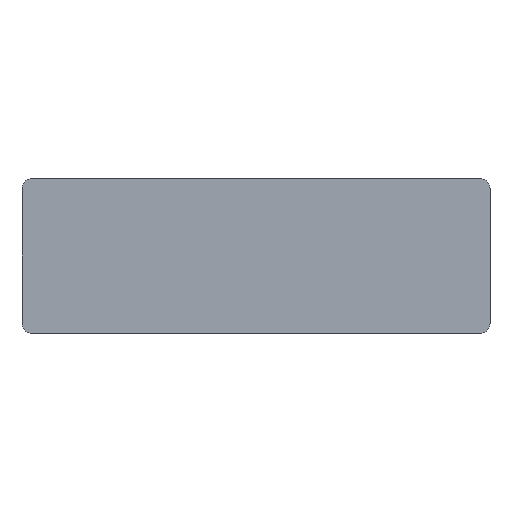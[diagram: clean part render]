
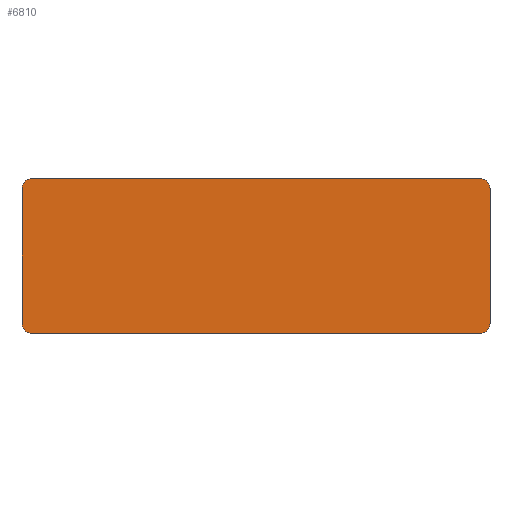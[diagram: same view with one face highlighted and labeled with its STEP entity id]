
A CAD part, front view. The second image highlights one B-rep face of the part: STEP entity #6810.
In plain terms, the highlighted planar face has unit normal (0, -1, 0).
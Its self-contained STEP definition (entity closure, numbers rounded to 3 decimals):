
#15=DIRECTION('',(1.,0.,0.));
#16=VECTOR('',#15,260.);
#17=CARTESIAN_POINT('',(-130.,-77.5,45.));
#18=LINE('19112',#17,#16);
#27=CARTESIAN_POINT('',(130.,-77.5,39.));
#28=DIRECTION('',(0.,1.,0.));
#29=DIRECTION('',(0.,0.,1.));
#30=AXIS2_PLACEMENT_3D('',#27,#28,#29);
#90=CARTESIAN_POINT('',(-130.,-77.5,39.));
#91=DIRECTION('',(0.,-1.,0.));
#92=DIRECTION('',(0.,0.,1.));
#93=AXIS2_PLACEMENT_3D('',#90,#91,#92);
#107=DIRECTION('',(0.,0.,1.));
#108=VECTOR('',#107,78.);
#109=CARTESIAN_POINT('',(-136.,-77.5,-39.));
#110=LINE('19116',#109,#108);
#2720=CARTESIAN_POINT('',(130.,-77.5,-39.));
#2721=DIRECTION('',(0.,-1.,0.));
#2722=DIRECTION('',(0.,0.,-1.));
#2723=AXIS2_PLACEMENT_3D('',#2720,#2721,#2722);
#2741=DIRECTION('',(0.,0.,-1.));
#2742=VECTOR('',#2741,78.);
#2743=CARTESIAN_POINT('',(136.,-77.5,39.));
#2744=LINE('19118',#2743,#2742);
#4536=DIRECTION('',(1.,0.,0.));
#4537=VECTOR('',#4536,260.);
#4538=CARTESIAN_POINT('',(-130.,-77.5,-45.));
#4539=LINE('19113',#4538,#4537);
#4548=CARTESIAN_POINT('',(-130.,-77.5,-39.));
#4549=DIRECTION('',(0.,1.,0.));
#4550=DIRECTION('',(0.,0.,-1.));
#4551=AXIS2_PLACEMENT_3D('',#4548,#4549,#4550);
#5747=CARTESIAN_POINT('',(-130.,-77.5,45.));
#5748=CARTESIAN_POINT('',(130.,-77.5,45.));
#5749=VERTEX_POINT('',#5747);
#5750=VERTEX_POINT('',#5748);
#5751=CARTESIAN_POINT('',(-130.,-77.5,-45.));
#5752=CARTESIAN_POINT('',(130.,-77.5,-45.));
#5753=VERTEX_POINT('',#5751);
#5754=VERTEX_POINT('',#5752);
#5755=CARTESIAN_POINT('',(-136.,-77.5,-39.));
#5756=CARTESIAN_POINT('',(-136.,-77.5,39.));
#5757=VERTEX_POINT('',#5755);
#5758=VERTEX_POINT('',#5756);
#5759=CARTESIAN_POINT('',(136.,-77.5,39.));
#5760=CARTESIAN_POINT('',(136.,-77.5,-39.));
#5761=VERTEX_POINT('',#5759);
#5762=VERTEX_POINT('',#5760);
#6788=CARTESIAN_POINT('',(192.5,-77.5,56.872));
#6789=DIRECTION('',(0.,1.,0.));
#6790=DIRECTION('',(0.,0.,-1.));
#6791=AXIS2_PLACEMENT_3D('',#6788,#6789,#6790);
#6792=PLANE('19108',#6791);
#6793=ORIENTED_EDGE('19112',*,*,#6777,.T.);
#6795=ORIENTED_EDGE('27859',*,*,#6794,.T.);
#6797=ORIENTED_EDGE('19118',*,*,#6796,.T.);
#6799=ORIENTED_EDGE('27861',*,*,#6798,.F.);
#6801=ORIENTED_EDGE('19113',*,*,#6800,.F.);
#6803=ORIENTED_EDGE('27862',*,*,#6802,.T.);
#6805=ORIENTED_EDGE('19116',*,*,#6804,.T.);
#6807=ORIENTED_EDGE('27860',*,*,#6806,.F.);
#6808=EDGE_LOOP('19108',(#6793,#6795,#6797,#6799,#6801,#6803,#6805,#6807));
#6809=FACE_OUTER_BOUND('19108',#6808,.F.);
#31=CIRCLE('27859',#30,6.);
#94=CIRCLE('27860',#93,6.);
#2724=CIRCLE('27861',#2723,6.);
#4552=CIRCLE('27862',#4551,6.);
#6777=EDGE_CURVE('19112',#5749,#5750,#18,.T.);
#6794=EDGE_CURVE('27859',#5750,#5761,#31,.T.);
#6796=EDGE_CURVE('19118',#5761,#5762,#2744,.T.);
#6798=EDGE_CURVE('27861',#5754,#5762,#2724,.T.);
#6800=EDGE_CURVE('19113',#5753,#5754,#4539,.T.);
#6802=EDGE_CURVE('27862',#5753,#5757,#4552,.T.);
#6804=EDGE_CURVE('19116',#5757,#5758,#110,.T.);
#6806=EDGE_CURVE('27860',#5749,#5758,#94,.T.);
#6810=ADVANCED_FACE('19108',(#6809),#6792,.F.);
